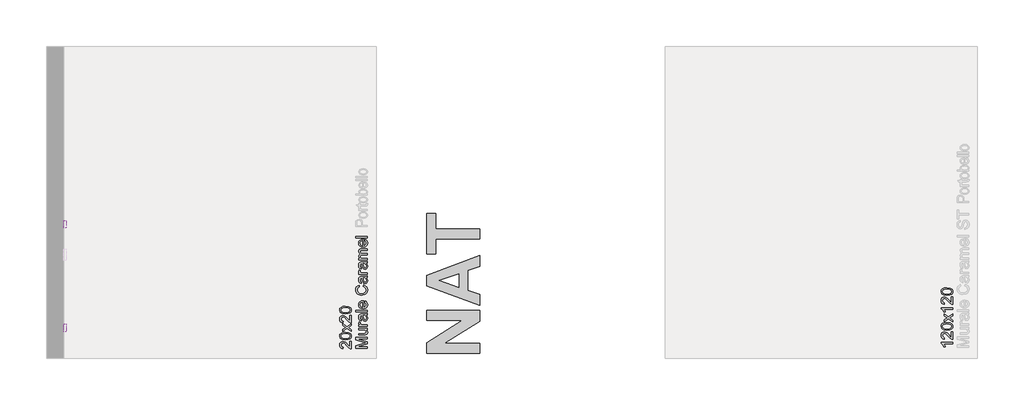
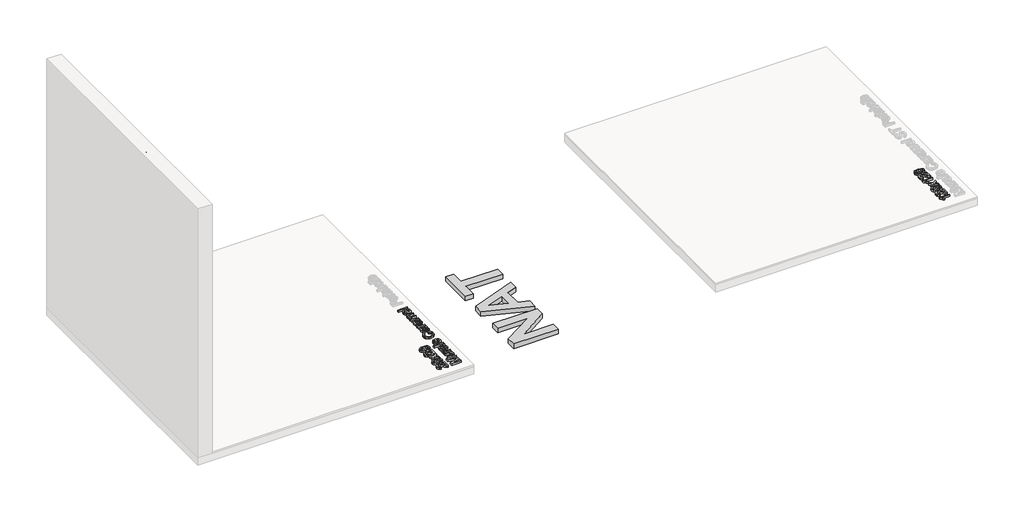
# One storey, part 18 of 21: 6 proxies.
"""IFC4 building model written with IfcOpenShell, lengths in millimetres."""

from ifc_helpers import new_model, si_unit, frame, origin, origin_with_axes, place, context, project, spatial, polyline, outline, extrude, element, save

model = new_model("IFC4")

# Units and contexts
model_context = context("Model", 3, world=origin())
ifc_project = project(units=[si_unit("LENGTHUNIT", "METRE", prefix="MILLI")], contexts=[model_context])

# Site, building, storey
site = spatial("IfcSite", under=ifc_project)
building = spatial("IfcBuilding", under=site)
storey = spatial("IfcBuildingStorey", under=building, Name="PORTOBELLO - SHOWROOM", Elevation=0.0)

# Proxies
placement = place(None, origin())
element("IfcBuildingElementProxy", 1, Name="10mm Arial", ObjectType="10mm Arial", at=placement, inside=storey, context=model_context, shape_type="SweptSolid", body=[
    extrude(outline(polyline([(17958.3969349, 34963.8882156), (17857.9406247, 34963.8882156), (17857.9406247, 34985.421575), (17928.7456461, 35006.0229667), (17943.5345023, 35010.192296), (17927.5193727, 35014.6804564), (17857.9406247, 35034.8894406), (17857.9406247, 35056.4963765), (17958.3969349, 35056.4963765), (17958.3969349, 35043.9393377), (17870.4976635, 35043.9393377), (17958.3969349, 35018.7026328), (17958.3969349, 35001.7064847), (17870.4976635, 34976.4452543), (17958.3969349, 34976.4452543), (17958.3969349, 34963.8882156)])), origin_with_axes(), (0.0, 0.0, 1.0), 20.0),
    extrude(outline(polyline([(17958.3969349, 35123.9904599), (17945.7172688, 35123.9904599), (17956.4042407, 35114.1557479), (17959.9665647, 35101.328929), (17957.4649672, 35089.5199169), (17951.1864478, 35081.3774621), (17941.940347, 35077.6373285), (17930.266225, 35076.9015645), (17884.6243321, 35076.9015645), (17884.6243321, 35089.4586032), (17924.3555876, 35089.4586032), (17937.157881, 35090.2188927), (17944.6749365, 35095.1852996), (17947.409526, 35104.541765), (17944.6136228, 35115.0264019), (17936.9984655, 35121.9548462), (17923.0066869, 35123.9904599), (17884.6243321, 35123.9904599), (17884.6243321, 35136.5474986), (17958.3969349, 35136.5474986), (17958.3969349, 35123.9904599)])), origin_with_axes(), (0.0, 0.0, 1.0), 20.0),
    extrude(outline(polyline([(17958.3969349, 35153.8134269), (17884.6243321, 35153.8134269), (17884.6243321, 35164.8008359), (17895.5381646, 35164.8008359), (17885.4827234, 35172.5999342), (17883.0547023, 35180.4480834), (17886.9297259, 35193.0541731), (17898.186915, 35188.8603183), (17895.611741, 35180.0311505), (17898.0888131, 35172.9310279), (17904.9559437, 35168.4060794), (17919.6221726, 35166.3704657), (17958.3969349, 35166.3704657), (17958.3969349, 35153.8134269)])), origin_with_axes(), (0.0, 0.0, 1.0), 20.0),
    extrude(outline(polyline([(17948.9791558, 35247.9912177), (17957.4894926, 35235.8143237), (17959.9665647, 35222.3621054), (17958.4766426, 35211.8682715), (17954.0068764, 35204.1274211), (17947.2194536, 35199.3541523), (17938.7765618, 35197.7630626), (17928.8437479, 35200.1665583), (17921.6332608, 35206.4818659), (17917.5129825, 35215.2742456), (17915.6245216, 35226.1390272), (17911.3080395, 35247.9176413), (17908.5121363, 35247.9912177), (17899.2415101, 35244.5331269), (17895.611741, 35230.651713), (17898.0274995, 35217.9475214), (17906.59915, 35211.8897312), (17905.0295201, 35199.3326925), (17892.7667869, 35204.7650833), (17885.5808253, 35215.7034413), (17883.0547023, 35232.2703938), (17885.2865197, 35247.4884456), (17890.8905888, 35256.0846216), (17899.4131883, 35259.9351198), (17910.4005972, 35260.5482565), (17926.0233193, 35260.5482565), (17947.8387216, 35261.1859186), (17958.3969349, 35263.6875162), (17958.3969349, 35251.1304774), (17948.9791558, 35247.9912177)]), holes=[polyline([(17923.8650783, 35247.9912177), (17927.7155765, 35227.7331825), (17929.7511902, 35216.9297146), (17933.0621281, 35212.036884), (17937.893645, 35210.3201014), (17944.6871992, 35214.060235), (17947.409526, 35225.0353812), (17944.4051563, 35237.7395728), (17937.1333556, 35245.9310785), (17927.4212709, 35247.9176413), (17923.8650783, 35247.9912177)])]), origin_with_axes(), (0.0, 0.0, 1.0), 20.0),
    extrude(outline(polyline([(17958.3969349, 35277.8141848), (17857.9406247, 35277.8141848), (17857.9406247, 35290.3712235), (17958.3969349, 35290.3712235), (17958.3969349, 35277.8141848)])), origin_with_axes(), (0.0, 0.0, 1.0), 20.0),
    extrude(outline(polyline([(17936.422117, 35360.8574138), (17937.9917469, 35373.1691979), (17947.2685045, 35368.7331542), (17954.2030801, 35361.6544915), (17958.5256936, 35352.0926253), (17959.9665647, 35340.2069712), (17957.4802956, 35325.4732972), (17950.0214881, 35314.1364004), (17938.0745203, 35306.9075192), (17922.1237702, 35304.4978922), (17905.6365254, 35306.9320447), (17893.3063472, 35314.2345023), (17885.6176135, 35325.4181149), (17883.0547023, 35339.4957326), (17885.6114821, 35353.1349576), (17893.2818217, 35364.0334617), (17905.5874745, 35371.1795695), (17922.0501938, 35373.5616054), (17925.4347081, 35373.488029), (17925.4347081, 35317.0549309), (17934.8340931, 35319.2285004), (17941.7441432, 35324.2776808), (17945.9931803, 35331.56481), (17947.409526, 35340.4522258), (17944.7853011, 35352.7640099), (17936.422117, 35360.8574138)]), holes=[polyline([(17912.8776693, 35317.0549309), (17912.8776693, 35361.0045666), (17901.497853, 35355.976846), (17897.083269, 35348.6559943), (17895.611741, 35339.4466817), (17900.3083678, 35323.9833752), (17905.7990066, 35319.1181358), (17912.8776693, 35317.0549309)])]), origin_with_axes(), (0.0, 0.0, 1.0), 20.0),
    extrude(outline(polyline([(17922.6878559, 35497.5623632), (17925.9252174, 35510.119402), (17940.5577238, 35504.3252606), (17951.2477614, 35495.2324439), (17957.7868639, 35483.2885418), (17959.9665647, 35468.941144), (17958.3172271, 35454.3760827), (17953.3692143, 35442.8092596), (17945.2942045, 35433.9433035), (17934.263876, 35427.4808431), (17907.4084903, 35422.2201306), (17892.7606556, 35423.706987), (17880.1116463, 35428.1675562), (17869.8630671, 35435.3688463), (17862.4165223, 35445.0778652), (17857.8823767, 35456.5925717), (17856.3709949, 35469.2109241), (17858.3269008, 35482.9789078), (17864.1946186, 35494.3617899), (17873.6123977, 35503.0039511), (17886.2184874, 35508.5497721), (17889.2105943, 35495.9927334), (17873.7718133, 35485.6920375), (17868.9280337, 35468.7204148), (17874.2991108, 35449.0755163), (17888.720085, 35437.9777427), (17907.3839649, 35434.7771694), (17929.0154262, 35438.5663539), (17942.8355265, 35450.3631032), (17947.409526, 35467.6903452), (17945.8521588, 35478.1719164), (17941.1800575, 35486.9060481), (17933.4422729, 35493.5003329), (17922.6878559, 35497.5623632)])), origin_with_axes(), (0.0, 0.0, 1.0), 20.0),
    extrude(outline(polyline([(17948.9791558, 35572.9045958), (17957.4894926, 35560.7277018), (17959.9665647, 35547.2754835), (17958.4766426, 35536.7816496), (17954.0068764, 35529.0407993), (17947.2194536, 35524.2675304), (17938.7765618, 35522.6764408), (17928.8437479, 35525.0799365), (17921.6332608, 35531.395244), (17917.5129825, 35540.1876237), (17915.6245216, 35551.0524053), (17911.3080395, 35572.8310194), (17908.5121363, 35572.9045958), (17899.2415101, 35569.4465051), (17895.611741, 35555.5650911), (17898.0274995, 35542.8608996), (17906.59915, 35536.8031094), (17905.0295201, 35524.2460706), (17892.7667869, 35529.6784614), (17885.5808253, 35540.6168194), (17883.0547023, 35557.1837719), (17885.2865197, 35572.4018238), (17890.8905888, 35580.9979997), (17899.4131883, 35584.8484979), (17910.4005972, 35585.4616346), (17926.0233193, 35585.4616346), (17947.8387216, 35586.0992967), (17958.3969349, 35588.6008943), (17958.3969349, 35576.0438555), (17948.9791558, 35572.9045958)]), holes=[polyline([(17923.8650783, 35572.9045958), (17927.7155765, 35552.6465606), (17929.7511902, 35541.8430927), (17933.0621281, 35536.9502622), (17937.893645, 35535.2334795), (17944.6871992, 35538.9736131), (17947.409526, 35549.9487593), (17944.4051563, 35562.6529509), (17937.1333556, 35570.8444567), (17927.4212709, 35572.8310194), (17923.8650783, 35572.9045958)])]), origin_with_axes(), (0.0, 0.0, 1.0), 20.0),
    extrude(outline(polyline([(17958.3969349, 35602.7275629), (17884.6243321, 35602.7275629), (17884.6243321, 35613.7149718), (17895.5381646, 35613.7149718), (17885.4827234, 35621.5140701), (17883.0547023, 35629.3622194), (17886.9297259, 35641.9683091), (17898.186915, 35637.7744543), (17895.611741, 35628.9452864), (17898.0888131, 35621.8451639), (17904.9559437, 35617.3202154), (17919.6221726, 35615.2846017), (17958.3969349, 35615.2846017), (17958.3969349, 35602.7275629)])), origin_with_axes(), (0.0, 0.0, 1.0), 20.0),
    extrude(outline(polyline([(17948.9791558, 35696.9053537), (17957.4894926, 35684.7284596), (17959.9665647, 35671.2762413), (17958.4766426, 35660.7824074), (17954.0068764, 35653.0415571), (17947.2194536, 35648.2682882), (17938.7765618, 35646.6771986), (17928.8437479, 35649.0806943), (17921.6332608, 35655.3960019), (17917.5129825, 35664.1883816), (17915.6245216, 35675.0531632), (17911.3080395, 35696.8317773), (17908.5121363, 35696.9053537), (17899.2415101, 35693.4472629), (17895.611741, 35679.565849), (17898.0274995, 35666.8616574), (17906.59915, 35660.8038672), (17905.0295201, 35648.2468285), (17892.7667869, 35653.6792192), (17885.5808253, 35664.6175772), (17883.0547023, 35681.1845298), (17885.2865197, 35696.4025816), (17890.8905888, 35704.9987576), (17899.4131883, 35708.8492558), (17910.4005972, 35709.4623924), (17926.0233193, 35709.4623924), (17947.8387216, 35710.1000546), (17958.3969349, 35712.6016521), (17958.3969349, 35700.0446134), (17948.9791558, 35696.9053537)]), holes=[polyline([(17923.8650783, 35696.9053537), (17927.7155765, 35676.6473185), (17929.7511902, 35665.8438506), (17933.0621281, 35660.95102), (17937.893645, 35659.2342374), (17944.6871992, 35662.974371), (17947.409526, 35673.9495172), (17944.4051563, 35686.6537087), (17937.1333556, 35694.8452145), (17927.4212709, 35696.8317773), (17923.8650783, 35696.9053537)])]), origin_with_axes(), (0.0, 0.0, 1.0), 20.0),
    extrude(outline(polyline([(17958.3969349, 35726.7283208), (17884.6243321, 35726.7283208), (17884.6243321, 35739.2853595), (17896.764438, 35739.2853595), (17886.8193613, 35747.9183237), (17883.0547023, 35760.2055823), (17886.8929377, 35772.7871466), (17897.6473547, 35779.7033281), (17886.7028654, 35789.5012519), (17883.0547023, 35801.8743496), (17884.5722155, 35811.3135885), (17889.1247552, 35818.2941494), (17896.8349487, 35822.6075657), (17907.8254233, 35824.0453712), (17958.3969349, 35824.0453712), (17958.3969349, 35811.4883324), (17913.2210259, 35811.4883324), (17902.736389, 35810.3233728), (17897.5737783, 35806.1049926), (17895.611741, 35798.9312937), (17900.6394616, 35786.5827214), (17907.1816298, 35782.8947044), (17916.752693, 35781.6653654), (17958.3969349, 35781.6653654), (17958.3969349, 35769.1083266), (17911.8230743, 35769.1083266), (17899.658443, 35766.2020588), (17895.611741, 35756.6739152), (17898.3095423, 35747.3787634), (17906.2067425, 35741.1983459), (17921.1918024, 35739.2853595), (17958.3969349, 35739.2853595), (17958.3969349, 35726.7283208)])), origin_with_axes(), (0.0, 0.0, 1.0), 20.0),
    extrude(outline(polyline([(17936.422117, 35894.5315615), (17937.9917469, 35906.8433456), (17947.2685045, 35902.4073019), (17954.2030801, 35895.3286391), (17958.5256936, 35885.766773), (17959.9665647, 35873.8811188), (17957.4802956, 35859.1474449), (17950.0214881, 35847.8105481), (17938.0745203, 35840.5816669), (17922.1237702, 35838.1720398), (17905.6365254, 35840.6061924), (17893.3063472, 35847.90865), (17885.6176135, 35859.0922626), (17883.0547023, 35873.1698803), (17885.6114821, 35886.8091053), (17893.2818217, 35897.7076094), (17905.5874745, 35904.8537171), (17922.0501938, 35907.2357531), (17925.4347081, 35907.1621767), (17925.4347081, 35850.7290786), (17934.8340931, 35852.9026481), (17941.7441432, 35857.9518284), (17945.9931803, 35865.2389576), (17947.409526, 35874.1263735), (17944.7853011, 35886.4381576), (17936.422117, 35894.5315615)]), holes=[polyline([(17912.8776693, 35850.7290786), (17912.8776693, 35894.6787143), (17901.497853, 35889.6509937), (17897.083269, 35882.330142), (17895.611741, 35873.1208294), (17900.3083678, 35857.6575228), (17905.7990066, 35852.7922835), (17912.8776693, 35850.7290786)])]), origin_with_axes(), (0.0, 0.0, 1.0), 20.0),
    extrude(outline(polyline([(17958.3969349, 35919.7927918), (17857.9406247, 35919.7927918), (17857.9406247, 35932.3498306), (17958.3969349, 35932.3498306), (17958.3969349, 35919.7927918)])), origin_with_axes(), (0.0, 0.0, 1.0), 20.0),
])
element("IfcBuildingElementProxy", 2, Name="10mm Arial", ObjectType="10mm Arial", at=placement, inside=storey, context=model_context, shape_type="SweptSolid", body=[
    extrude(outline(polyline([(35020.1771476, 2393.7466291), (35020.1771476, 2381.1895903), (34954.2526941, 2381.1895903), (34955.6015947, 2389.84708), (34963.2412775, 2403.1766709), (34978.9743642, 2417.7325352), (35000.6426137, 2438.652758), (35006.050479, 2452.8775285), (35000.9369193, 2464.3922349), (34987.5828028, 2469.0888617), (34973.6646007, 2464.5025995), (34968.3793627, 2451.8229334), (34955.8223239, 2453.3925633), (34958.8665474, 2465.5388005), (34965.4485695, 2474.4108879), (34975.2250335, 2479.8371473), (34987.852583, 2481.6459005), (35000.572103, 2479.6348123), (35010.3301729, 2473.6015475), (35016.5381816, 2464.5884386), (35018.6075178, 2453.6378179), (35016.3757003, 2441.730704), (35008.9567468, 2429.4189199), (34990.9673172, 2412.2143053), (34976.5218175, 2400.1355131), (34970.8564348, 2393.7466291), (35020.1771476, 2393.7466291)])), frame((15333.968651, 0.0, 0.0), z_axis=(1.0, 0.0, 0.0), x_axis=(0.0, 1.0, 0.0)), (0.0, 0.0, 1.0), 20.0),
    extrude(outline(polyline([(35032.7341864, 2430.608405), (35036.4252691, 2459.5116671), (35047.3881525, 2476.1767215), (35065.6964132, 2481.6459005), (35080.362642, 2478.4085389), (35090.4916596, 2469.076599), (35096.3777716, 2454.2141664), (35098.6586399, 2430.608405), (35095.0043454, 2401.8277703), (35084.0782502, 2385.1259277), (35075.8468905, 2380.9964523), (35065.6964132, 2379.6199605), (35052.6488651, 2382.0111935), (35042.7405767, 2389.1848924), (35035.235784, 2406.1749092), (35032.7341864, 2430.608405)]), holes=[polyline([(35045.2912252, 2430.6329305), (35046.7627531, 2410.880733), (35051.1773371, 2399.4488), (35057.7501621, 2393.9949495), (35065.6964132, 2392.1769993), (35073.6426643, 2394.0010808), (35080.2154892, 2399.4733255), (35084.6300732, 2410.9113899), (35086.1016012, 2430.6329305), (35084.6791241, 2449.9406039), (35080.411693, 2461.4614417), (35073.8511307, 2467.1820067), (35065.5492604, 2469.0888617), (35057.6888484, 2467.4088673), (35051.3735408, 2462.3688839), (35046.8118041, 2450.1306762), (35045.2912252, 2430.6329305)])]), frame((15333.968651, 0.0, 0.0), z_axis=(1.0, 0.0, 0.0), x_axis=(0.0, 1.0, 0.0)), (0.0, 0.0, 1.0), 20.0),
    extrude(outline(polyline([(35104.9371593, 2381.1895903), (35131.7680195, 2418.2966209), (35106.5067892, 2454.9621931), (35121.5654255, 2454.9621931), (35133.7545823, 2437.2793319), (35139.4690159, 2428.9651988), (35144.4231601, 2435.7832784), (35158.3045741, 2454.9621931), (35173.4122613, 2454.9621931), (35146.8757068, 2418.2720955), (35172.4312427, 2381.1895903), (35157.3480809, 2381.1895903), (35141.946088, 2403.5077647), (35139.1501849, 2407.6035176), (35120.0448466, 2381.1895903), (35104.9371593, 2381.1895903)])), frame((15333.968651, 0.0, 0.0), z_axis=(1.0, 0.0, 0.0), x_axis=(0.0, 1.0, 0.0)), (0.0, 0.0, 1.0), 20.0),
    extrude(outline(polyline([(35244.6342156, 2393.7466291), (35244.6342156, 2381.1895903), (35178.7097621, 2381.1895903), (35180.0586627, 2389.84708), (35187.6983455, 2403.1766709), (35203.4314322, 2417.7325352), (35225.0996817, 2438.652758), (35230.507547, 2452.8775285), (35225.3939873, 2464.3922349), (35212.0398708, 2469.0888617), (35198.1216687, 2464.5025995), (35192.8364307, 2451.8229334), (35180.2793919, 2453.3925633), (35183.3236154, 2465.5388005), (35189.9056375, 2474.4108879), (35199.6821015, 2479.8371473), (35212.309651, 2481.6459005), (35225.029171, 2479.6348123), (35234.7872409, 2473.6015475), (35240.9952495, 2464.5884386), (35243.0645858, 2453.6378179), (35240.8327683, 2441.730704), (35233.4138148, 2429.4189199), (35215.4243852, 2412.2143053), (35200.9788855, 2400.1355131), (35195.3135028, 2393.7466291), (35244.6342156, 2393.7466291)])), frame((15333.968651, 0.0, 0.0), z_axis=(1.0, 0.0, 0.0), x_axis=(0.0, 1.0, 0.0)), (0.0, 0.0, 1.0), 20.0),
    extrude(outline(polyline([(35257.1912544, 2430.608405), (35260.8823371, 2459.5116671), (35271.8452205, 2476.1767215), (35290.1534811, 2481.6459005), (35304.81971, 2478.4085389), (35314.9487276, 2469.076599), (35320.8348395, 2454.2141664), (35323.1157079, 2430.608405), (35319.4614134, 2401.8277703), (35308.5353182, 2385.1259277), (35300.3039585, 2380.9964523), (35290.1534811, 2379.6199605), (35277.1059331, 2382.0111935), (35267.1976446, 2389.1848924), (35259.6928519, 2406.1749092), (35257.1912544, 2430.608405)]), holes=[polyline([(35269.7482931, 2430.6329305), (35271.2198211, 2410.880733), (35275.6344051, 2399.4488), (35282.2072301, 2393.9949495), (35290.1534811, 2392.1769993), (35298.0997322, 2394.0010808), (35304.6725572, 2399.4733255), (35309.0871412, 2410.9113899), (35310.5586691, 2430.6329305), (35309.1361921, 2449.9406039), (35304.868761, 2461.4614417), (35298.3081987, 2467.1820067), (35290.0063284, 2469.0888617), (35282.1459164, 2467.4088673), (35275.8306088, 2462.3688839), (35271.2688721, 2450.1306762), (35269.7482931, 2430.6329305)])]), frame((15333.968651, 0.0, 0.0), z_axis=(1.0, 0.0, 0.0), x_axis=(0.0, 1.0, 0.0)), (0.0, 0.0, 1.0), 20.0),
])
element("IfcBuildingElementProxy", 3, Name="10mm Arial", ObjectType="10mm Arial", at=placement, inside=storey, context=model_context, shape_type="SweptSolid", body=[
    extrude(outline(polyline([(17805.8398961, 35023.5341497), (17818.3969349, 35023.5341497), (17818.3969349, 34957.6096962), (17809.7394453, 34958.9585968), (17796.4098543, 34966.5982796), (17781.85399, 34982.3313662), (17760.9337672, 35003.9996158), (17746.7089968, 35009.4074811), (17735.1942903, 35004.2939214), (17730.4976635, 34990.9398049), (17735.0839257, 34977.0216028), (17747.7635918, 34971.7363648), (17746.193962, 34959.179326), (17734.0477248, 34962.2235495), (17725.1756373, 34968.8055716), (17719.7493779, 34978.5820356), (17717.9406247, 34991.2095851), (17719.951713, 35003.929105), (17725.9849777, 35013.687175), (17734.9980866, 35019.8951836), (17745.9487073, 35021.9645199), (17757.8558212, 35019.7327024), (17770.1676053, 35012.3137489), (17787.37222, 34994.3243193), (17799.4510121, 34979.8788196), (17805.8398961, 34974.2134369), (17805.8398961, 35023.5341497)])), origin_with_axes(), (0.0, 0.0, 1.0), 20.0),
    extrude(outline(polyline([(17768.9781202, 35036.0911885), (17740.0748581, 35039.7822712), (17723.4098037, 35050.7451546), (17717.9406247, 35069.0534152), (17721.1779863, 35083.7196441), (17730.5099262, 35093.8486617), (17745.3723588, 35099.7347736), (17768.9781202, 35102.015642), (17797.7587549, 35098.3613475), (17814.4605975, 35087.4352523), (17818.5900729, 35079.2038926), (17819.9665647, 35069.0534152), (17817.5753318, 35056.0058671), (17810.4016328, 35046.0975787), (17793.411616, 35038.592786), (17768.9781202, 35036.0911885)]), holes=[polyline([(17768.9535947, 35048.6482272), (17788.7057922, 35050.1197552), (17800.1377252, 35054.5343392), (17805.5915758, 35061.1071641), (17807.409526, 35069.0534152), (17805.5854444, 35076.9996663), (17800.1131997, 35083.5724913), (17788.6751354, 35087.9870753), (17768.9535947, 35089.4586032), (17749.6459213, 35088.0361262), (17738.1250835, 35083.7686951), (17732.4045185, 35077.2081328), (17730.4976635, 35068.9062624), (17732.1776579, 35061.0458505), (17737.2176413, 35054.7305429), (17749.455849, 35050.1688062), (17768.9535947, 35048.6482272)])]), origin_with_axes(), (0.0, 0.0, 1.0), 20.0),
    extrude(outline(polyline([(17818.3969349, 35108.2941614), (17781.2899043, 35135.1250216), (17744.6243321, 35109.8637912), (17744.6243321, 35124.9224276), (17762.3071933, 35137.1115844), (17770.6213264, 35142.826018), (17763.8032468, 35147.7801622), (17744.6243321, 35161.6615762), (17744.6243321, 35176.7692634), (17781.3144298, 35150.2327088), (17818.3969349, 35175.7882448), (17818.3969349, 35160.705083), (17796.0787605, 35145.3030901), (17791.9830076, 35142.5071869), (17818.3969349, 35123.4018487), (17818.3969349, 35108.2941614)])), origin_with_axes(), (0.0, 0.0, 1.0), 20.0),
    extrude(outline(polyline([(17805.8398961, 35247.9912177), (17818.3969349, 35247.9912177), (17818.3969349, 35182.0667642), (17809.7394453, 35183.4156648), (17796.4098543, 35191.0553476), (17781.85399, 35206.7884342), (17760.9337672, 35228.4566838), (17746.7089968, 35233.8645491), (17735.1942903, 35228.7509893), (17730.4976635, 35215.3968729), (17735.0839257, 35201.4786708), (17747.7635918, 35196.1934328), (17746.193962, 35183.636394), (17734.0477248, 35186.6806175), (17725.1756373, 35193.2626395), (17719.7493779, 35203.0391036), (17717.9406247, 35215.6666531), (17719.951713, 35228.386173), (17725.9849777, 35238.144243), (17734.9980866, 35244.3522516), (17745.9487073, 35246.4215879), (17757.8558212, 35244.1897704), (17770.1676053, 35236.7708168), (17787.37222, 35218.7813873), (17799.4510121, 35204.3358876), (17805.8398961, 35198.6705049), (17805.8398961, 35247.9912177)])), origin_with_axes(), (0.0, 0.0, 1.0), 20.0),
    extrude(outline(polyline([(17768.9781202, 35260.5482565), (17740.0748581, 35264.2393392), (17723.4098037, 35275.2022226), (17717.9406247, 35293.5104832), (17721.1779863, 35308.1767121), (17730.5099262, 35318.3057297), (17745.3723588, 35324.1918416), (17768.9781202, 35326.47271), (17797.7587549, 35322.8184155), (17814.4605975, 35311.8923203), (17818.5900729, 35303.6609606), (17819.9665647, 35293.5104832), (17817.5753318, 35280.4629351), (17810.4016328, 35270.5546467), (17793.411616, 35263.049854), (17768.9781202, 35260.5482565)]), holes=[polyline([(17768.9535947, 35273.1052952), (17788.7057922, 35274.5768232), (17800.1377252, 35278.9914072), (17805.5915758, 35285.5642321), (17807.409526, 35293.5104832), (17805.5854444, 35301.4567343), (17800.1131997, 35308.0295593), (17788.6751354, 35312.4441433), (17768.9535947, 35313.9156712), (17749.6459213, 35312.4931942), (17738.1250835, 35308.225763), (17732.4045185, 35301.6652008), (17730.4976635, 35293.3633304), (17732.1776579, 35285.5029185), (17737.2176413, 35279.1876109), (17749.455849, 35274.6258741), (17768.9535947, 35273.1052952)])]), origin_with_axes(), (0.0, 0.0, 1.0), 20.0),
])
element("IfcBuildingElementProxy", 4, Name="10mm Arial", ObjectType="10mm Arial", at=placement, inside=storey, context=model_context, shape_type="SweptSolid", body=[
    extrude(outline(polyline([(23019.4374935, 35012.2496861), (23019.4374935, 34999.6926473), (22941.1522049, 34999.6926473), (22949.6257535, 34987.7977962), (22955.9655865, 34974.5785698), (22944.0952608, 34974.5785698), (22932.3475625, 34992.9849323), (22918.9811833, 35004.1562822), (22918.9811833, 35012.2496861), (23019.4374935, 35012.2496861)])), frame((0.0, 0.0, 17.0), z_axis=(0.0, 0.0, 1.0), x_axis=(1.0, 0.0, 0.0)), (0.0, 0.0, 1.0), 20.0),
    extrude(outline(polyline([(23006.8804547, 35106.4274769), (23019.4374935, 35106.4274769), (23019.4374935, 35040.5030233), (23010.7800038, 35041.851924), (22997.4504129, 35049.4916067), (22982.8945486, 35065.2246934), (22961.9743258, 35086.8929429), (22947.7495553, 35092.3008083), (22936.2348489, 35087.1872485), (22931.5382221, 35073.8331321), (22936.1244843, 35059.9149299), (22948.8041504, 35054.6296919), (22947.2345205, 35042.0726532), (22935.0882833, 35045.1168767), (22926.2161959, 35051.6988987), (22920.7899364, 35061.4753627), (22918.9811833, 35074.1029122), (22920.9922715, 35086.8224322), (22927.0255363, 35096.5805021), (22936.0386451, 35102.7885108), (22946.9892659, 35104.857847), (22958.8963798, 35102.6260296), (22971.2081639, 35095.207076), (22988.4127785, 35077.2176465), (23000.4915707, 35062.7721468), (23006.8804547, 35057.106764), (23006.8804547, 35106.4274769)])), frame((0.0, 0.0, 17.0), z_axis=(0.0, 0.0, 1.0), x_axis=(1.0, 0.0, 0.0)), (0.0, 0.0, 1.0), 20.0),
    extrude(outline(polyline([(22970.0186788, 35118.9845156), (22941.1154167, 35122.6755983), (22924.4503623, 35133.6384818), (22918.9811833, 35151.9467424), (22922.2185449, 35166.6129713), (22931.5504848, 35176.7419889), (22946.4129174, 35182.6281008), (22970.0186788, 35184.9089692), (22998.7993135, 35181.2546747), (23015.5011561, 35170.3285794), (23019.6306315, 35162.0972198), (23021.0071233, 35151.9467424), (23018.6158903, 35138.8991943), (23011.4421914, 35128.9909059), (22994.4521746, 35121.4861132), (22970.0186788, 35118.9845156)]), holes=[polyline([(22969.9941533, 35131.5415544), (22989.7463508, 35133.0130824), (23001.1782838, 35137.4276663), (23006.6321343, 35144.0004913), (23008.4500845, 35151.9467424), (23006.626003, 35159.8929935), (23001.1537583, 35166.4658185), (22989.7156939, 35170.8804024), (22969.9941533, 35172.3519304), (22950.6864799, 35170.9294534), (22939.1656421, 35166.6620222), (22933.4450771, 35160.10146), (22931.5382221, 35151.7995896), (22933.2182165, 35143.9391776), (22938.2581998, 35137.6238701), (22950.4964076, 35133.0621333), (22969.9941533, 35131.5415544)])]), frame((0.0, 0.0, 17.0), z_axis=(0.0, 0.0, 1.0), x_axis=(1.0, 0.0, 0.0)), (0.0, 0.0, 1.0), 20.0),
    extrude(outline(polyline([(23019.4374935, 35191.1874886), (22982.3304629, 35218.0183487), (22945.6648907, 35192.7571184), (22945.6648907, 35207.8157547), (22963.3477519, 35220.0049115), (22971.661885, 35225.7193452), (22964.8438054, 35230.6734894), (22945.6648907, 35244.5549033), (22945.6648907, 35259.6625906), (22982.3549883, 35233.126036), (23019.4374935, 35258.6815719), (23019.4374935, 35243.5984101), (22997.1193191, 35228.1964173), (22993.0235662, 35225.4005141), (23019.4374935, 35206.2951758), (23019.4374935, 35191.1874886)])), frame((0.0, 0.0, 17.0), z_axis=(0.0, 0.0, 1.0), x_axis=(1.0, 0.0, 0.0)), (0.0, 0.0, 1.0), 20.0),
    extrude(outline(polyline([(23019.4374935, 35313.6186166), (23019.4374935, 35301.0615778), (22941.1522049, 35301.0615778), (22949.6257535, 35289.1667266), (22955.9655865, 35275.9475002), (22944.0952608, 35275.9475002), (22932.3475625, 35294.3538627), (22918.9811833, 35305.5252127), (22918.9811833, 35313.6186166), (23019.4374935, 35313.6186166)])), frame((0.0, 0.0, 17.0), z_axis=(0.0, 0.0, 1.0), x_axis=(1.0, 0.0, 0.0)), (0.0, 0.0, 1.0), 20.0),
    extrude(outline(polyline([(23006.8804547, 35407.7964073), (23019.4374935, 35407.7964073), (23019.4374935, 35341.8719538), (23010.7800038, 35343.2208544), (22997.4504129, 35350.8605372), (22982.8945486, 35366.5936239), (22961.9743258, 35388.2618734), (22947.7495553, 35393.6697387), (22936.2348489, 35388.556179), (22931.5382221, 35375.2020625), (22936.1244843, 35361.2838604), (22948.8041504, 35355.9986224), (22947.2345205, 35343.4415836), (22935.0882833, 35346.4858071), (22926.2161959, 35353.0678292), (22920.7899364, 35362.8442932), (22918.9811833, 35375.4718427), (22920.9922715, 35388.1913627), (22927.0255363, 35397.9494326), (22936.0386451, 35404.1574412), (22946.9892659, 35406.2267775), (22958.8963798, 35403.99496), (22971.2081639, 35396.5760065), (22988.4127785, 35378.5865769), (23000.4915707, 35364.1410772), (23006.8804547, 35358.4756945), (23006.8804547, 35407.7964073)])), frame((0.0, 0.0, 17.0), z_axis=(0.0, 0.0, 1.0), x_axis=(1.0, 0.0, 0.0)), (0.0, 0.0, 1.0), 20.0),
    extrude(outline(polyline([(22970.0186788, 35420.3534461), (22941.1154167, 35424.0445288), (22924.4503623, 35435.0074122), (22918.9811833, 35453.3156729), (22922.2185449, 35467.9819017), (22931.5504848, 35478.1109193), (22946.4129174, 35483.9970313), (22970.0186788, 35486.2778996), (22998.7993135, 35482.6236051), (23015.5011561, 35471.6975099), (23019.6306315, 35463.4661502), (23021.0071233, 35453.3156729), (23018.6158903, 35440.2681248), (23011.4421914, 35430.3598364), (22994.4521746, 35422.8550437), (22970.0186788, 35420.3534461)]), holes=[polyline([(22969.9941533, 35432.9104849), (22989.7463508, 35434.3820128), (23001.1782838, 35438.7965968), (23006.6321343, 35445.3694218), (23008.4500845, 35453.3156729), (23006.626003, 35461.2619239), (23001.1537583, 35467.8347489), (22989.7156939, 35472.2493329), (22969.9941533, 35473.7208609), (22950.6864799, 35472.2983838), (22939.1656421, 35468.0309527), (22933.4450771, 35461.4703904), (22931.5382221, 35453.1685201), (22933.2182165, 35445.3081081), (22938.2581998, 35438.9928005), (22950.4964076, 35434.4310638), (22969.9941533, 35432.9104849)])]), frame((0.0, 0.0, 17.0), z_axis=(0.0, 0.0, 1.0), x_axis=(1.0, 0.0, 0.0)), (0.0, 0.0, 1.0), 20.0),
])
element("IfcBuildingElementProxy", 5, Name="10mm Arial Narrow", ObjectType="10mm Arial Narrow", at=placement, inside=storey, context=model_context, shape_type="SweptSolid", body=[
    extrude(outline(polyline([(36004.317037, 2516.1895903), (36004.317037, 2616.9081941), (36035.6139217, 2616.9081941), (36051.9096232, 2615.0298734), (36063.3826093, 2605.5494302), (36067.6722878, 2588.5303214), (36065.8859794, 2576.4544958), (36060.5270542, 2566.8281021), (36050.7832654, 2560.5268436), (36035.8423661, 2558.4264242), (36014.0639987, 2558.4264242), (36014.0639987, 2516.1895903), (36004.317037, 2516.1895903)]), holes=[polyline([(36014.0639987, 2569.7978794), (36037.0353536, 2569.7978794), (36052.899549, 2574.3286936), (36057.9253261, 2587.9972844), (36055.4505116, 2598.1630608), (36049.4728828, 2603.9630106), (36036.8069092, 2605.5367388), (36014.0639987, 2605.5367388), (36014.0639987, 2569.7978794)])]), frame((15333.968651, 0.0, 0.0), z_axis=(1.0, 0.0, 0.0), x_axis=(0.0, 1.0, 0.0)), (0.0, 0.0, 1.0), 20.0),
    extrude(outline(polyline([(36075.7947558, 2552.7406965), (36077.7492247, 2569.3314721), (36083.6126313, 2581.2835569), (36092.471198, 2588.5081115), (36103.4111472, 2590.9162964), (36114.2241828, 2588.5081115), (36123.1081322, 2581.2835569), (36129.0476869, 2569.5218424), (36131.0275385, 2553.5021779), (36129.0825882, 2536.3402913), (36123.2477371, 2524.1978362), (36114.3986889, 2516.9732816), (36103.4111472, 2514.5650967), (36092.550519, 2516.9796273), (36083.6760881, 2524.2232189), (36077.7650889, 2536.1816494), (36075.7947558, 2552.7406965)]), holes=[polyline([(36085.5417175, 2552.7660793), (36086.8457543, 2540.2143279), (36090.7578649, 2531.3430698), (36096.5990617, 2526.0698112), (36103.690357, 2524.3120584), (36110.4104302, 2526.0856754), (36116.1025035, 2531.4065266), (36119.9860585, 2540.2936488), (36121.2805769, 2552.7660793), (36119.97654, 2565.2797566), (36116.0644294, 2574.1383233), (36110.2232327, 2579.4115818), (36103.1319373, 2581.1693347), (36096.3642716, 2579.4020633), (36090.6817168, 2574.1002492), (36086.8267173, 2565.232164), (36085.5417175, 2552.7660793)])]), frame((15333.968651, 0.0, 0.0), z_axis=(1.0, 0.0, 0.0), x_axis=(0.0, 1.0, 0.0)), (0.0, 0.0, 1.0), 20.0),
    extrude(outline(polyline([(36202.5052573, 2524.3120584), (36204.1297509, 2514.5650967), (36196.7687643, 2514.5650967), (36188.4939999, 2516.6845532), (36184.1789388, 2522.4845031), (36183.011334, 2537.1303283), (36183.011334, 2579.5448411), (36174.888866, 2579.5448411), (36174.888866, 2582.7938283), (36173.2643724, 2577.9203475), (36165.700324, 2579.5448411), (36159.6211643, 2577.2223229), (36155.7503006, 2570.7370398), (36153.770449, 2555.3297332), (36153.770449, 2516.1895903), (36144.0234874, 2516.1895903), (36144.0234874, 2589.2918027), (36153.770449, 2589.2918027), (36153.770449, 2579.5956065), (36160.0145964, 2588.6826176), (36166.4110399, 2590.9162964), (36174.888866, 2589.2918027), (36183.011334, 2589.2918027), (36183.011334, 2605.5367388), (36192.7582957, 2613.6592069), (36192.7582957, 2589.2918027), (36202.5052573, 2589.2918027), (36202.5052573, 2579.5448411), (36192.7582957, 2579.5448411), (36192.7582957, 2534.8966496), (36193.6213079, 2526.9010951), (36198.2409616, 2524.3120584), (36202.5052573, 2524.3120584)])), frame((15333.968651, 0.0, 0.0), z_axis=(1.0, 0.0, 0.0), x_axis=(0.0, 1.0, 0.0)), (0.0, 0.0, 1.0), 20.0),
    extrude(outline(polyline([(36209.0032318, 2552.7406965), (36210.9577006, 2569.3314721), (36216.8211072, 2581.2835569), (36225.679674, 2588.5081115), (36236.6196231, 2590.9162964), (36247.4326587, 2588.5081115), (36256.3166081, 2581.2835569), (36262.2561629, 2569.5218424), (36264.2360145, 2553.5021779), (36262.2910641, 2536.3402913), (36256.456213, 2524.1978362), (36247.6071648, 2516.9732816), (36236.6196231, 2514.5650967), (36225.7589949, 2516.9796273), (36216.884564, 2524.2232189), (36210.9735648, 2536.1816494), (36209.0032318, 2552.7406965)]), holes=[polyline([(36218.7501934, 2552.7660793), (36220.0542303, 2540.2143279), (36223.9663409, 2531.3430698), (36229.8075376, 2526.0698112), (36236.8988329, 2524.3120584), (36243.6189061, 2526.0856754), (36249.3109794, 2531.4065266), (36253.1945345, 2540.2936488), (36254.4890528, 2552.7660793), (36253.1850159, 2565.2797566), (36249.2729054, 2574.1383233), (36243.4317086, 2579.4115818), (36236.3404133, 2581.1693347), (36229.5727475, 2579.4020633), (36223.8901927, 2574.1002492), (36220.0351932, 2565.232164), (36218.7501934, 2552.7660793)])]), frame((15333.968651, 0.0, 0.0), z_axis=(1.0, 0.0, 0.0), x_axis=(0.0, 1.0, 0.0)), (0.0, 0.0, 1.0), 20.0),
    extrude(outline(polyline([(36286.978925, 2516.1895903), (36277.2319633, 2516.1895903), (36277.2319633, 2616.9081941), (36286.978925, 2616.9081941), (36286.978925, 2581.49931), (36294.3779857, 2588.5810868), (36303.579219, 2590.9162964), (36316.4609457, 2586.7154574), (36325.7383272, 2573.986027), (36329.2157588, 2553.2991162), (36327.2834998, 2536.8447728), (36321.4867228, 2524.6420337), (36313.1136005, 2517.084331), (36303.4523055, 2514.5650967), (36294.1114672, 2517.1795161), (36286.978925, 2524.9466262), (36286.978925, 2516.1895903)]), holes=[polyline([(36286.978925, 2553.2991162), (36289.0603074, 2536.051563), (36294.9490967, 2527.3199098), (36303.4015401, 2524.3120584), (36309.3442677, 2526.1015396), (36314.582625, 2531.4699834), (36319.4687972, 2552.8929928), (36314.760304, 2574.3286936), (36309.515601, 2579.4591744), (36303.1984784, 2581.1693347), (36297.2208495, 2579.3798535), (36291.9285539, 2574.0114097), (36286.978925, 2553.2991162)])]), frame((15333.968651, 0.0, 0.0), z_axis=(1.0, 0.0, 0.0), x_axis=(0.0, 1.0, 0.0)), (0.0, 0.0, 1.0), 20.0),
    extrude(outline(polyline([(36381.1995543, 2538.9325009), (36390.946516, 2537.3080073), (36387.2469856, 2527.4214407), (36381.4279987, 2520.3015898), (36373.7243454, 2515.99922), (36364.3708158, 2514.5650967), (36352.7772618, 2516.9796273), (36343.6331396, 2524.2232189), (36337.6935848, 2536.0293531), (36335.7137332, 2552.1315114), (36337.7031034, 2568.7984351), (36343.6712137, 2580.9789644), (36352.6852495, 2588.4319634), (36363.8123961, 2590.9162964), (36374.4953453, 2588.51763), (36383.2428627, 2581.321631), (36389.0777137, 2569.5821264), (36391.0226641, 2553.5529433), (36390.946516, 2550.3039561), (36345.4606949, 2550.3039561), (36351.4637064, 2530.8607982), (36357.3937427, 2525.9492434), (36364.4977294, 2524.3120584), (36374.6761971, 2527.967169), (36381.1995543, 2538.9325009)]), holes=[polyline([(36346.1206454, 2560.0509178), (36381.1995543, 2560.0509178), (36376.9352586, 2574.3160023), (36371.109926, 2579.4560016), (36363.8885443, 2581.1693347), (36351.6794595, 2575.4582244), (36346.1206454, 2560.0509178)])]), frame((15333.968651, 0.0, 0.0), z_axis=(1.0, 0.0, 0.0), x_axis=(0.0, 1.0, 0.0)), (0.0, 0.0, 1.0), 20.0),
    extrude(outline(polyline([(15353.968651, 36413.6894265), (15353.968651, 36403.9424648), (15333.968651, 36403.9424648), (15333.968651, 36413.6894265), (15353.968651, 36413.6894265)])), frame((0.0, 0.0, 2516.1895903), z_axis=(0.0, 0.0, 1.0), x_axis=(1.0, 0.0, 0.0)), (0.0, 0.0, 1.0), 100.7186038),
    extrude(outline(polyline([(15353.968651, 36439.6813242), (15353.968651, 36429.9343626), (15333.968651, 36429.9343626), (15333.968651, 36439.6813242), (15353.968651, 36439.6813242)])), frame((0.0, 0.0, 2516.1895903), z_axis=(0.0, 0.0, 1.0), x_axis=(1.0, 0.0, 0.0)), (0.0, 0.0, 1.0), 100.7186038),
    extrude(outline(polyline([(36451.0527795, 2552.7406965), (36453.0072484, 2569.3314721), (36458.870655, 2581.2835569), (36467.7292217, 2588.5081115), (36478.6691708, 2590.9162964), (36489.4822064, 2588.5081115), (36498.3661558, 2581.2835569), (36504.3057106, 2569.5218424), (36506.2855622, 2553.5021779), (36504.3406118, 2536.3402913), (36498.5057608, 2524.1978362), (36489.6567126, 2516.9732816), (36478.6691708, 2514.5650967), (36467.8085427, 2516.9796273), (36458.9341118, 2524.2232189), (36453.0231125, 2536.1816494), (36451.0527795, 2552.7406965)]), holes=[polyline([(36460.7997411, 2552.7660793), (36462.103778, 2540.2143279), (36466.0158886, 2531.3430698), (36471.8570853, 2526.0698112), (36478.9483807, 2524.3120584), (36485.6684538, 2526.0856754), (36491.3605272, 2531.4065266), (36495.2440822, 2540.2936488), (36496.5386005, 2552.7660793), (36495.2345637, 2565.2797566), (36491.3224531, 2574.1383233), (36485.4812563, 2579.4115818), (36478.389961, 2581.1693347), (36471.6222952, 2579.4020633), (36465.9397404, 2574.1002492), (36462.084741, 2565.232164), (36460.7997411, 2552.7660793)])]), frame((15333.968651, 0.0, 0.0), z_axis=(1.0, 0.0, 0.0), x_axis=(0.0, 1.0, 0.0)), (0.0, 0.0, 1.0), 20.0),
])
element("IfcBuildingElementProxy", 6, Name="450mm Arial", ObjectType="450mm Arial", at=placement, inside=storey, context=model_context, shape_type="SweptSolid", body=[
    extrude(outline(polyline([(18929.6229349, 34919.1171638), (18470.5062049, 34919.1171638), (18470.5062049, 35010.7810943), (18779.5445991, 35203.3322824), (18470.5062049, 35203.3322824), (18470.5062049, 35290.7830881), (18929.6229349, 35290.7830881), (18929.6229349, 35196.2724517), (18625.1392703, 35006.5679695), (18929.6229349, 35006.5679695), (18929.6229349, 34919.1171638)])), origin_with_axes(), (0.0, 0.0, 1.0), 50.0),
    extrude(outline(polyline([(18929.6229349, 35764.4749524), (18929.6229349, 35672.5832854), (18827.5969949, 35636.6009227), (18827.5969949, 35463.2934666), (18929.6229349, 35427.7665767), (18929.6229349, 35334.508491), (18470.5062049, 35501.8947988), (18470.5062049, 35595.2667528), (18929.6229349, 35764.4749524)]), holes=[polyline([(18747.4337564, 35608.5893365), (18579.8197121, 35549.4917217), (18747.4337564, 35491.1911845), (18747.4337564, 35608.5893365)])]), origin_with_axes(), (0.0, 0.0, 1.0), 50.0),
    extrude(outline(polyline([(18929.6229349, 35910.2262952), (18550.6694435, 35910.2262952), (18550.6694435, 35779.0500867), (18470.5062049, 35779.0500867), (18470.5062049, 36128.8533095), (18550.6694435, 36128.8533095), (18550.6694435, 35997.6771009), (18929.6229349, 35997.6771009), (18929.6229349, 35910.2262952)])), origin_with_axes(), (0.0, 0.0, 1.0), 50.0),
])

save(model, "model.ifc")
